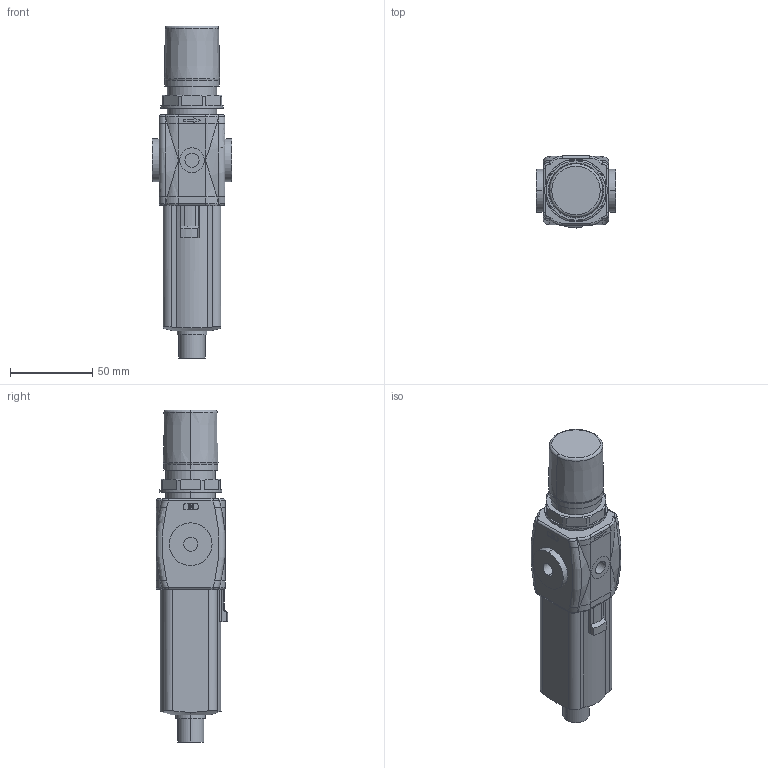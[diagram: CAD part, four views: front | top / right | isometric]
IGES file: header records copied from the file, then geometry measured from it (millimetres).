
Global section: file name: No Iges File Name specified; native system: Autodesk Inventor 2010; preprocessor: AutoDesk Inventor Iges Exporter R2010; author: valotma1; date: 20100823.141831; units: millimetre
Bounding box: 48 x 43.6 x 201.6 mm (x, y, z)
Volume: 228520.6 mm3; surface area: 34302.7 mm2
Topology: 2 solids, 2 shells, 353 faces, 852 edges, 544 vertices
Faces by surface type: plane 151, cylinder 69, bspline 64, revolution 35, torus 22, cone 12
